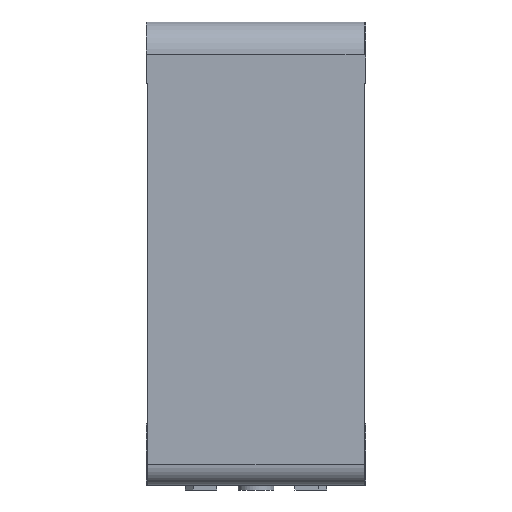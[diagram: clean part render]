
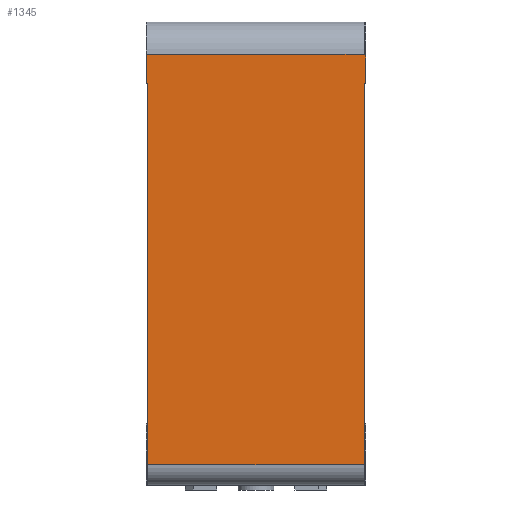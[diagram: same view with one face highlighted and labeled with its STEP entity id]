
A CAD part, front view. The second image highlights one B-rep face of the part: STEP entity #1345.
In plain terms, the highlighted planar face has unit normal (0, -1, 0).
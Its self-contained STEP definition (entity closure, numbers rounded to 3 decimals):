
#19 = ORIENTED_EDGE ( 'NONE', *, *, #1713, .F. ) ;
#103 = LINE ( 'NONE', #2730, #715 ) ;
#104 = LINE ( 'NONE', #1162, #351 ) ;
#143 = CARTESIAN_POINT ( 'NONE',  ( -13.5, -47.5, -4. ) ) ;
#167 = CARTESIAN_POINT ( 'NONE',  ( 13.5, -47.5, -7.6 ) ) ;
#184 = ORIENTED_EDGE ( 'NONE', *, *, #2776, .T. ) ;
#351 = VECTOR ( 'NONE', #1145, 1000. ) ;
#355 = VECTOR ( 'NONE', #2778, 1000. ) ;
#415 = DIRECTION ( 'NONE',  ( 1., 0., 0. ) ) ;
#420 = CARTESIAN_POINT ( 'NONE',  ( 13.3, -47.5, -3.8 ) ) ;
#429 = LINE ( 'NONE', #2704, #2643 ) ;
#492 = VERTEX_POINT ( 'NONE', #143 ) ;
#513 = VECTOR ( 'NONE', #1404, 1000. ) ;
#541 = VERTEX_POINT ( 'NONE', #2219 ) ;
#591 = DIRECTION ( 'NONE',  ( 0., 0., 1. ) ) ;
#616 = VECTOR ( 'NONE', #1239, 1000. ) ;
#627 = LINE ( 'NONE', #1423, #3222 ) ;
#635 = EDGE_CURVE ( 'NONE', #1990, #1635, #2511, .T. ) ;
#715 = VECTOR ( 'NONE', #871, 1000. ) ;
#782 = EDGE_CURVE ( 'NONE', #3198, #1107, #2537, .T. ) ;
#824 = DIRECTION ( 'NONE',  ( 1., 0., 0. ) ) ;
#825 = CARTESIAN_POINT ( 'NONE',  ( -13.5, -47.5, -4. ) ) ;
#871 = DIRECTION ( 'NONE',  ( -1., 0., 0. ) ) ;
#939 = CARTESIAN_POINT ( 'NONE',  ( 13.5, -47.5, -3.8 ) ) ;
#1012 = DIRECTION ( 'NONE',  ( 0., 0., -1. ) ) ;
#1096 = CARTESIAN_POINT ( 'NONE',  ( -13.5, -47.5, -7.6 ) ) ;
#1107 = VERTEX_POINT ( 'NONE', #2685 ) ;
#1108 = ORIENTED_EDGE ( 'NONE', *, *, #3026, .F. ) ;
#1145 = DIRECTION ( 'NONE',  ( 0., 0., 1. ) ) ;
#1162 = CARTESIAN_POINT ( 'NONE',  ( 13.3, -47.5, -57. ) ) ;
#1169 = ORIENTED_EDGE ( 'NONE', *, *, #1402, .T. ) ;
#1209 = VECTOR ( 'NONE', #824, 1000. ) ;
#1239 = DIRECTION ( 'NONE',  ( -1., 0., 0. ) ) ;
#1345 = ADVANCED_FACE ( 'NONE', ( #3070 ), #1521, .T. ) ;
#1402 = EDGE_CURVE ( 'NONE', #541, #1635, #2597, .T. ) ;
#1404 = DIRECTION ( 'NONE',  ( -1., 0., 0. ) ) ;
#1409 = DIRECTION ( 'NONE',  ( 0., 0., -1. ) ) ;
#1423 = CARTESIAN_POINT ( 'NONE',  ( 13.5, -47.5, -7.6 ) ) ;
#1447 = EDGE_CURVE ( 'NONE', #1743, #492, #103, .T. ) ;
#1521 = PLANE ( 'NONE',  #2630 ) ;
#1551 = VECTOR ( 'NONE', #591, 1000. ) ;
#1635 = VERTEX_POINT ( 'NONE', #2487 ) ;
#1684 = VERTEX_POINT ( 'NONE', #420 ) ;
#1713 = EDGE_CURVE ( 'NONE', #3366, #3198, #627, .T. ) ;
#1727 = LINE ( 'NONE', #939, #513 ) ;
#1743 = VERTEX_POINT ( 'NONE', #2089 ) ;
#1951 = LINE ( 'NONE', #2995, #355 ) ;
#1962 = CARTESIAN_POINT ( 'NONE',  ( -13.3, -47.5, -54.5 ) ) ;
#1990 = VERTEX_POINT ( 'NONE', #1962 ) ;
#2089 = CARTESIAN_POINT ( 'NONE',  ( 13.3, -47.5, -4. ) ) ;
#2205 = ORIENTED_EDGE ( 'NONE', *, *, #2314, .T. ) ;
#2219 = CARTESIAN_POINT ( 'NONE',  ( -13.5, -47.5, -7.6 ) ) ;
#2265 = CARTESIAN_POINT ( 'NONE',  ( 13.5, -47.5, -3.8 ) ) ;
#2271 = CARTESIAN_POINT ( 'NONE',  ( -13.3, -47.5, -57. ) ) ;
#2285 = DIRECTION ( 'NONE',  ( 0., 0., 1. ) ) ;
#2308 = ORIENTED_EDGE ( 'NONE', *, *, #1447, .T. ) ;
#2314 = EDGE_CURVE ( 'NONE', #1684, #1743, #1951, .T. ) ;
#2402 = ORIENTED_EDGE ( 'NONE', *, *, #3224, .T. ) ;
#2407 = LINE ( 'NONE', #825, #1551 ) ;
#2487 = CARTESIAN_POINT ( 'NONE',  ( -13.3, -47.5, -7.6 ) ) ;
#2488 = ORIENTED_EDGE ( 'NONE', *, *, #782, .F. ) ;
#2511 = LINE ( 'NONE', #2271, #2635 ) ;
#2537 = LINE ( 'NONE', #3315, #616 ) ;
#2561 = CARTESIAN_POINT ( 'NONE',  ( -13.3, -47.5, -57. ) ) ;
#2597 = LINE ( 'NONE', #1096, #1209 ) ;
#2630 = AXIS2_PLACEMENT_3D ( 'NONE', #2561, #3343, #1012 ) ;
#2635 = VECTOR ( 'NONE', #2285, 1000. ) ;
#2643 = VECTOR ( 'NONE', #415, 1000. ) ;
#2685 = CARTESIAN_POINT ( 'NONE',  ( 13.3, -47.5, -7.6 ) ) ;
#2704 = CARTESIAN_POINT ( 'NONE',  ( 13.3, -47.5, -54.5 ) ) ;
#2730 = CARTESIAN_POINT ( 'NONE',  ( -13.3, -47.5, -4. ) ) ;
#2738 = EDGE_CURVE ( 'NONE', #3366, #1684, #1727, .T. ) ;
#2776 = EDGE_CURVE ( 'NONE', #1990, #3336, #429, .T. ) ;
#2778 = DIRECTION ( 'NONE',  ( 0., 0., -1. ) ) ;
#2812 = CARTESIAN_POINT ( 'NONE',  ( 13.3, -47.5, -54.5 ) ) ;
#2864 = ORIENTED_EDGE ( 'NONE', *, *, #635, .F. ) ;
#2908 = ORIENTED_EDGE ( 'NONE', *, *, #2738, .T. ) ;
#2995 = CARTESIAN_POINT ( 'NONE',  ( 13.3, -47.5, -7.6 ) ) ;
#3026 = EDGE_CURVE ( 'NONE', #541, #492, #2407, .T. ) ;
#3070 = FACE_OUTER_BOUND ( 'NONE', #3156, .T. ) ;
#3156 = EDGE_LOOP ( 'NONE', ( #2864, #184, #2402, #2488, #19, #2908, #2205, #2308, #1108, #1169 ) ) ;
#3198 = VERTEX_POINT ( 'NONE', #167 ) ;
#3222 = VECTOR ( 'NONE', #1409, 1000. ) ;
#3224 = EDGE_CURVE ( 'NONE', #3336, #1107, #104, .T. ) ;
#3315 = CARTESIAN_POINT ( 'NONE',  ( 13.5, -47.5, -7.6 ) ) ;
#3336 = VERTEX_POINT ( 'NONE', #2812 ) ;
#3343 = DIRECTION ( 'NONE',  ( 0., -1., 0. ) ) ;
#3366 = VERTEX_POINT ( 'NONE', #2265 ) ;
